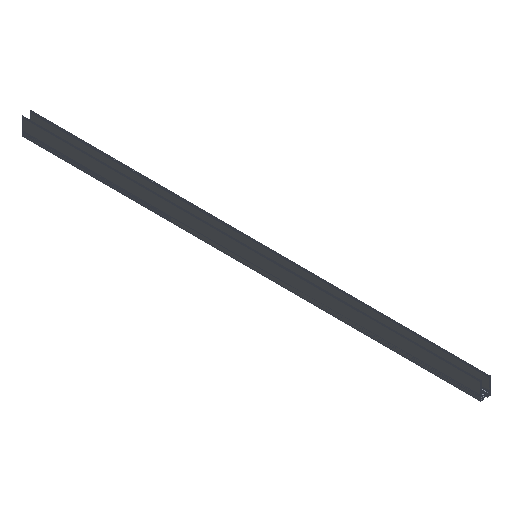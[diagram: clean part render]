
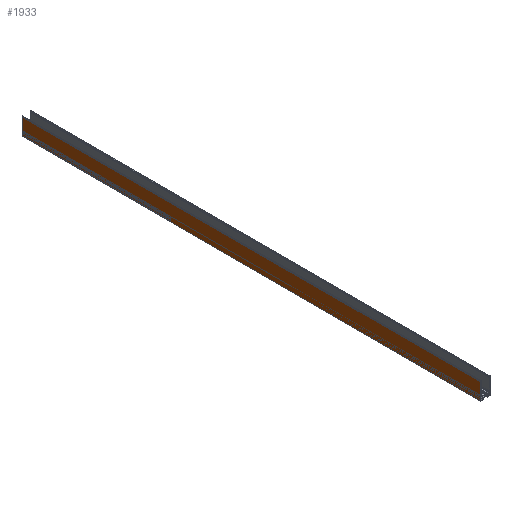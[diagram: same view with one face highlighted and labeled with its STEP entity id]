
A CAD part, isometric view. The second image highlights one B-rep face of the part: STEP entity #1933.
In plain terms, the highlighted planar face has unit normal (-1, 0, 0) as drawn and (1, 0, 0) by its records, which use the part's own axes.
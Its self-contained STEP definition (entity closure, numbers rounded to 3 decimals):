
#121=FACE_OUTER_BOUND('',#224,.T.);
#224=EDGE_LOOP('',(#1549,#1550,#1551,#1552));
#408=LINE('',#2908,#671);
#413=LINE('',#2918,#676);
#465=LINE('',#3022,#728);
#466=LINE('',#3023,#729);
#671=VECTOR('',#2376,304.8);
#676=VECTOR('',#2383,304.8);
#728=VECTOR('',#2471,304.8);
#729=VECTOR('',#2472,304.8);
#888=VERTEX_POINT('',#2905);
#889=VERTEX_POINT('',#2907);
#891=VERTEX_POINT('',#2912);
#893=VERTEX_POINT('',#2916);
#1116=EDGE_CURVE('',#889,#888,#408,.T.);
#1121=EDGE_CURVE('',#891,#893,#413,.T.);
#1173=EDGE_CURVE('',#891,#888,#465,.T.);
#1174=EDGE_CURVE('',#889,#893,#466,.T.);
#1549=ORIENTED_EDGE('',*,*,#1173,.F.);
#1550=ORIENTED_EDGE('',*,*,#1121,.T.);
#1551=ORIENTED_EDGE('',*,*,#1174,.F.);
#1552=ORIENTED_EDGE('',*,*,#1116,.T.);
#1830=PLANE('',#2049);
#1933=ADVANCED_FACE('',(#121),#1830,.T.);
#2049=AXIS2_PLACEMENT_3D('',#3021,#2469,#2470);
#2376=DIRECTION('',(0.,-1.,0.));
#2383=DIRECTION('',(0.,1.,0.));
#2469=DIRECTION('center_axis',(1.,0.,0.));
#2470=DIRECTION('ref_axis',(0.,1.,0.));
#2471=DIRECTION('',(0.,0.,1.));
#2472=DIRECTION('',(0.,0.,-1.));
#2905=CARTESIAN_POINT('',(19.7,-1000.,76.));
#2907=CARTESIAN_POINT('',(19.7,1000.,76.));
#2908=CARTESIAN_POINT('',(19.7,1000.,76.));
#2912=CARTESIAN_POINT('',(19.7,-1000.,0.));
#2916=CARTESIAN_POINT('',(19.7,1000.,0.));
#2918=CARTESIAN_POINT('',(19.7,-1000.,0.));
#3021=CARTESIAN_POINT('Origin',(19.7,-1000.,16.644));
#3022=CARTESIAN_POINT('',(19.7,-1000.,0.));
#3023=CARTESIAN_POINT('',(19.7,1000.,76.));
